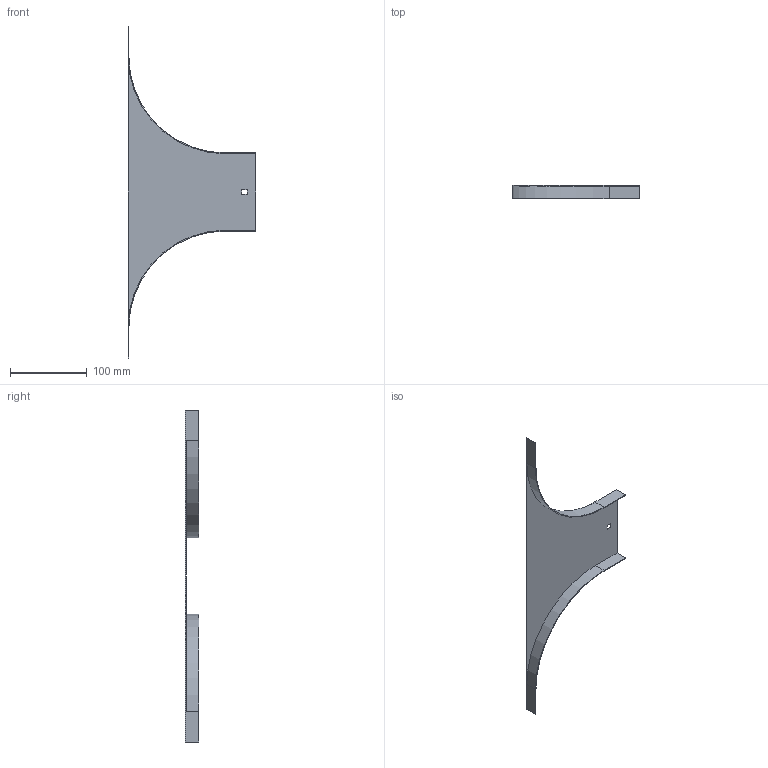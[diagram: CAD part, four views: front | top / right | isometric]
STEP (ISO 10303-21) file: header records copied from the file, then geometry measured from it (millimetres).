
FILE_DESCRIPTION (( 'STEP AP214' ), '1' );
FILE_NAME ('ORL_100.step', '2025-07-16T09:15:38', ( '' ), ( '' ), 'SwSTEP 2.0', 'SolidWorks 2023', '' );
FILE_SCHEMA (( 'AUTOMOTIVE_DESIGN' ));
Length unit declared in the file: millimetre
Products named in the file (1): ORL_100
Bounding box: 167 x 17 x 434 mm (x, y, z)
Volume: 33056.6 mm3; surface area: 67297.1 mm2
Topology: 1 solids, 1 shells, 22 faces, 60 edges, 40 vertices
Faces by surface type: plane 18, cylinder 4
Entity records: 719 total; most frequent: CARTESIAN_POINT 123, ORIENTED_EDGE 120, DIRECTION 114, EDGE_CURVE 60, VECTOR 52, LINE 52, VERTEX_POINT 40, AXIS2_PLACEMENT_3D 31
